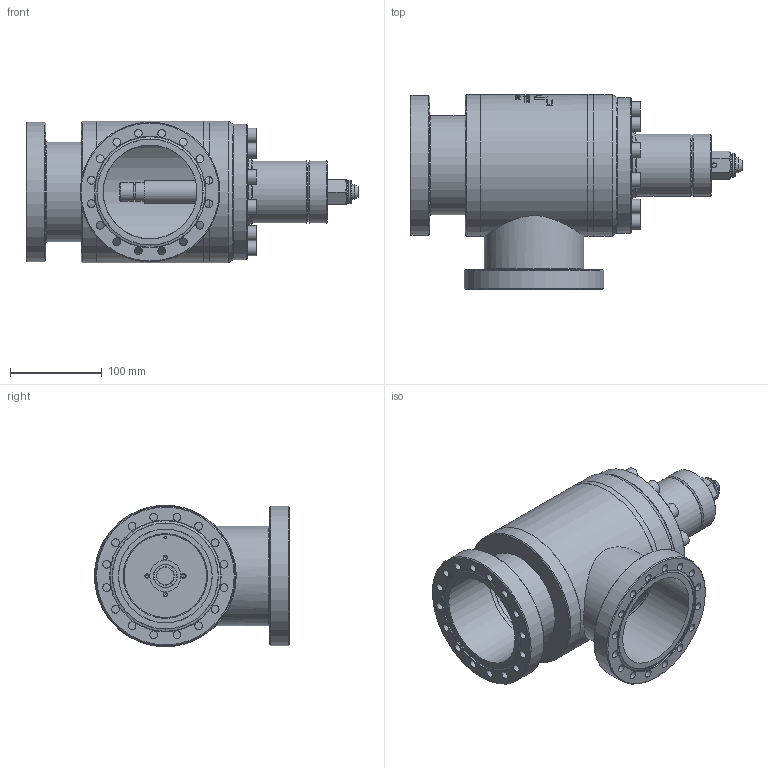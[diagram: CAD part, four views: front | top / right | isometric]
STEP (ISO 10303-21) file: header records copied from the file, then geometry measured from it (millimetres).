
FILE_DESCRIPTION(/* description */ (''),/* implementation_level */ '2;1');
FILE_NAME(/* name */ '1053903944_203.stp',/* time_stamp */ '2011-08-18T15:00:48+02:00',/* author */ (''),/* organization */ (''),/* preprocessor_version */ 'ST-DEVELOPER v11',/* originating_system */ 'SIEMENS UGS NX 6.0',/* authorisation */ '');
FILE_SCHEMA (('CONFIG_CONTROL_DESIGN'));
Length unit declared in the file: millimetre
Products named in the file (19): 93697-01; 93705-01; 434944_15047ID; 434943_15049ID; 434948; 434958_14992ID; N-6090-268.1; 231125_1.1; 80946-01_1.2; n-5019-839; 364772; 39987-01.1; 43563-09.1; N-6203-460.1; N-6198-016.2; 39992-01.1; 434961_MODEL; 231124.1; 502028
Assembly tree (30 placements, depth 3):
  502028
    39992-01.1
    N-6198-016.2
    N-6203-460.1
    231124.1
      80946-01_1.2
      231125_1.1
      N-6090-268.1
    43563-09.1
    39987-01.1
    364772
    n-5019-839  x12
    434961_MODEL
      434958_14992ID
      434948
      434943_15049ID
      434944_15047ID
      93705-01  x2
      93697-01
Bounding box: 361.27 x 212.12 x 154.15 mm (x, y, z)
Volume: 1638412.2 mm3; surface area: 565424 mm2
Topology: 53 solids, 53 shells, 558 faces, 1481 edges, 1111 vertices
Faces by surface type: cylinder 246, plane 223, cone 76, torus 12, bspline 1
Full cylindrical faces by diameter (mm): 3 x1, 4.2 x4, 5 x4, 5.15 x2, 6 x2, 8.36 x12, 8.4 x44, 8.5 x12, 9.9 x1, 10 x24, 10.8 x12, 15.4 x1, 15.95 x2, 16 x12, 16.4 x1, 19.974 x2, 24.983 x1, 25.6 x1, 31.95 x1, 32.15 x1, 34.013 x1, 48 x2, 49 x1, 54.5 x1, 55 x2, 59.85 x1, 60.05 x2, 63.15 x1, 67.875 x2, 71 x1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
Entity records: 14228 total; most frequent: CARTESIAN_POINT 3945, ORIENTED_EDGE 1528, DIRECTION 1318, EDGE_CURVE 764, VERTEX_POINT 749, EDGE_LOOP 668, AXIS2_PLACEMENT_3D 629, FACE_BOUND 602
